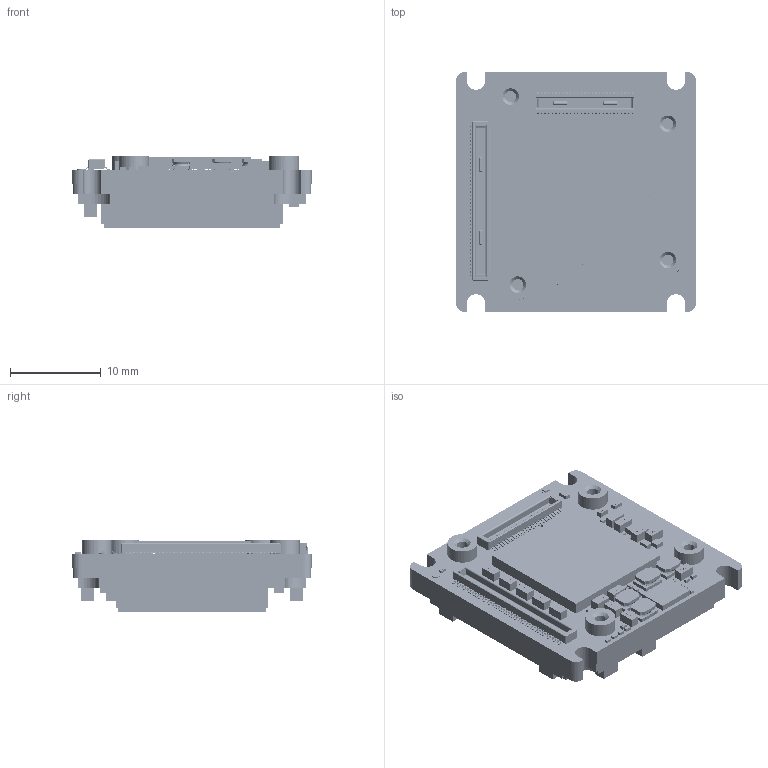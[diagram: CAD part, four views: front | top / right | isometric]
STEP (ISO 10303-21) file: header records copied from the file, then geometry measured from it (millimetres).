
FILE_DESCRIPTION (( 'STEP AP214' ), '1' );
FILE_NAME ('Alvium-Extended-Bare-Board-IMX174-249.STEP', '2022-12-21T15:03:10', ( '' ), ( '' ), 'SwSTEP 2.0', 'SolidWorks 2021', '' );
FILE_SCHEMA (( 'AUTOMOTIVE_DESIGN' ));
Length unit declared in the file: millimetre
Products named in the file (1): Alvium-Extended-Bare-Board-IMX174-249
Bounding box: 26.4 x 26.4 x 7.94 mm (x, y, z)
Volume: 3676.9 mm3; surface area: 4961.6 mm2
Topology: 164 solids, 164 shells, 11570 faces, 29228 edges, 19072 vertices
Faces by surface type: plane 6095, bspline 4223, cylinder 1188, torus 40, cone 24
Entity records: 715309 total; most frequent: CARTESIAN_POINT 335790, ORIENTED_EDGE 58440, DIRECTION 37806, EDGE_CURVE 29220, VERTEX_POINT 19072, VECTOR 18246, LINE 18246, EDGE_LOOP 12672
